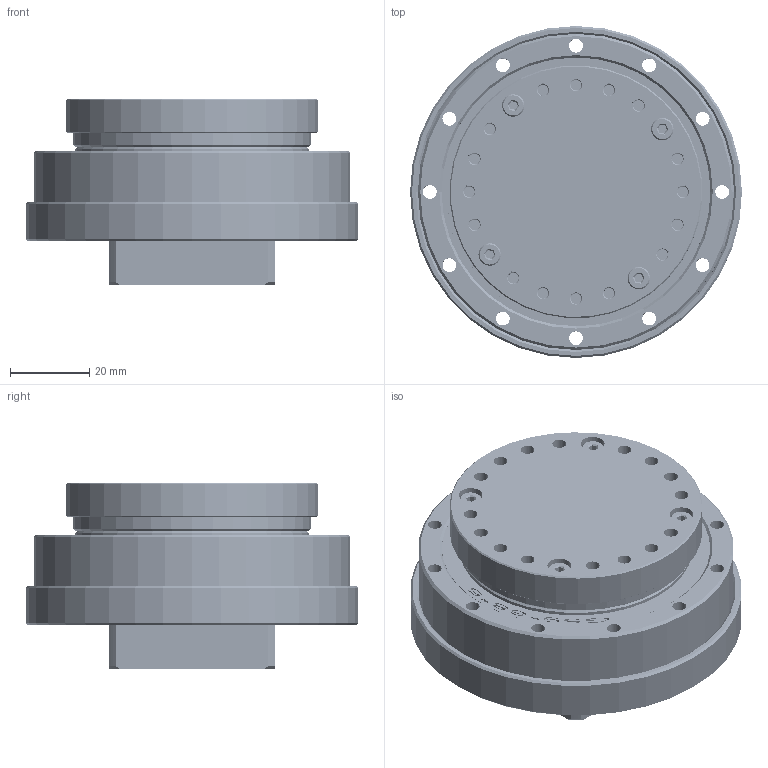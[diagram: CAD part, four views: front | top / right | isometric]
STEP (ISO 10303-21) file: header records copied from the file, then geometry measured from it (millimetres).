
FILE_DESCRIPTION (( 'STEP AP203' ), '1' );
FILE_NAME ('FA17.STEP', '2026-03-08T13:35:43', ( '' ), ( '' ), 'SwSTEP 2.0', 'SolidWorks 2022', '' );
FILE_SCHEMA (( 'CONFIG_CONTROL_DESIGN' ));
Length unit declared in the file: millimetre
Products named in the file (45): FA17.sldasm-Part-34; FA17.sldasm-Part-5; FA17.sldasm-Part-21; FA17.sldasm-Part-23; FA17.sldasm-Part-11; FA17.sldasm-Part-4; FA17.sldasm-Part-14; FA17.sldasm-Part-41; FA17; FA17.sldasm-Part-2; FA17.sldasm-Part-43; FA17.sldasm-Part-10; FA17.sldasm-Part-33; FA17.sldasm-Part-31; FA17.sldasm-Part-30; FA17.sldasm-Part-42; FA17.sldasm-Part-27; FA17.sldasm-Part-28; FA17.sldasm-Part-24; FA17.sldasm-Part-40; FA17.sldasm-Part-25; FA17.sldasm-Part-36; FA17.sldasm-Part-15; FA17.sldasm-Part-39; FA17.sldasm-Part-3; FA17.sldasm-Part-13; FA17.sldasm-Part-32; FA17.sldasm-Part-18; FA17.sldasm-Part-17; FA17.sldasm-Part-12; FA17.sldasm-Part-8; FA17.sldasm-Part-20; FA17.sldasm-Part-26; FA17.sldasm-Part-37; FA17.sldasm-Part-35; FA17.sldasm-Part-1; FA17.sldasm-Part-29; FA17.sldasm-Part-38; FA17.sldasm-Part-22; FA17.sldasm-Part-7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
Assembly tree (58 placements, depth 2):
  FA17
    FA17.sldasm-Part-1  x2
    FA17.sldasm-Part-2
    FA17.sldasm-Part-3  x4
    FA17.sldasm-Part-4  x4
    FA17.sldasm-Part-5
    FA17.sldasm-Part-6
    FA17.sldasm-Part-7
    FA17.sldasm-Part-8  x4
    FA17.sldasm-Part-9
    FA17.sldasm-Part-10
    FA17.sldasm-Part-11
    FA17.sldasm-Part-12
    FA17.sldasm-Part-13
    FA17.sldasm-Part-14
    FA17.sldasm-Part-15
    FA17.sldasm-Part-16
    FA17.sldasm-Part-17
    FA17.sldasm-Part-18
    FA17.sldasm-Part-19
    FA17.sldasm-Part-20
    FA17.sldasm-Part-21
    FA17.sldasm-Part-22
    FA17.sldasm-Part-23
    FA17.sldasm-Part-24
    FA17.sldasm-Part-25
    FA17.sldasm-Part-26
    FA17.sldasm-Part-27
    FA17.sldasm-Part-28
    FA17.sldasm-Part-29
    FA17.sldasm-Part-30
    FA17.sldasm-Part-31
    FA17.sldasm-Part-32
    FA17.sldasm-Part-33
    FA17.sldasm-Part-34
    FA17.sldasm-Part-35  x4
    FA17.sldasm-Part-36
    FA17.sldasm-Part-37
    FA17.sldasm-Part-38
    FA17.sldasm-Part-39
    FA17.sldasm-Part-40
    FA17.sldasm-Part-41  x2
    FA17.sldasm-Part-42
    FA17.sldasm-Part-43
    FA17.sldasm-Part-44
Bounding box: 84 x 84 x 47 mm (x, y, z)
Volume: 126156.3 mm3; surface area: 101929.3 mm2
Topology: 58 solids, 58 shells, 4898 faces, 13743 edges, 9017 vertices
Faces by surface type: cylinder 3717, plane 478, cone 393, bspline 216, torus 52, sphere 42
Entity records: 267115 total; most frequent: CARTESIAN_POINT 176592, ORIENTED_EDGE 20506, DIRECTION 13535, EDGE_CURVE 10253, VERTEX_POINT 6731, B_SPLINE_CURVE_WITH_KNOTS 5339, AXIS2_PLACEMENT_3D 5034, EDGE_LOOP 4034
